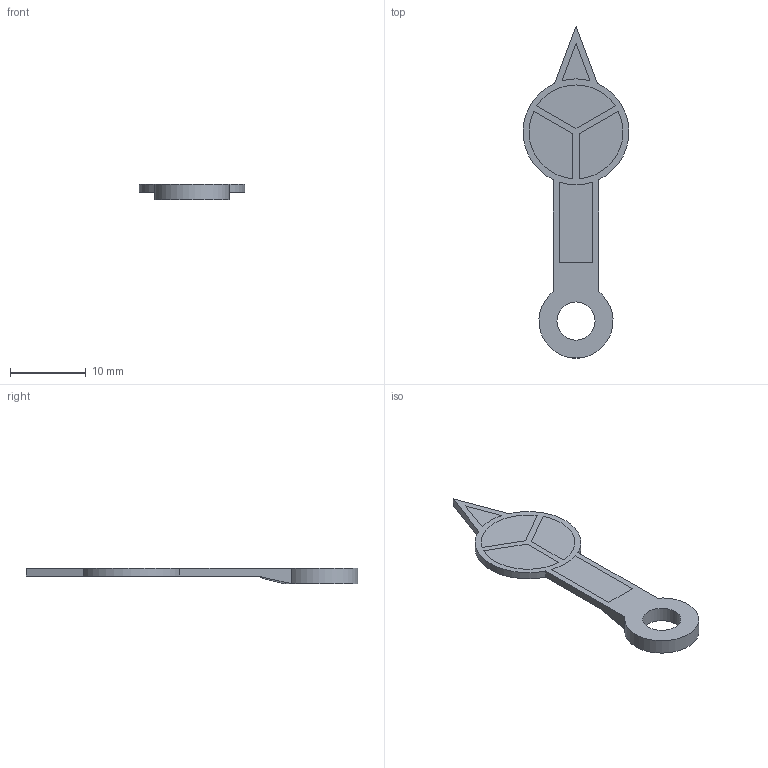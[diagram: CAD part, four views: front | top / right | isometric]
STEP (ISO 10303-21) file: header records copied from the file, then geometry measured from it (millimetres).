
FILE_DESCRIPTION(/* description */ ('STEP AP242','CAx-IF Rec.Pracs.---Representation and Presentation of Product Manufacturing Information (PMI)---4.0---2014-10-13','CAx-IF Rec.Pracs.---3D Tessellated Geometry---0.4---2014-09-14','2;1'),/* implementation_level */ '2;1');
FILE_NAME(/* name */ '66d36ffe95d81402515f4cec',/* time_stamp */ '2024-08-31T19:33:18Z',/* author */ (''),/* organization */ (''),/* preprocessor_version */ 'ST-DEVELOPER v20',/* originating_system */ ' ',/* authorisation */ ' ');
FILE_SCHEMA (('AP242_MANAGED_MODEL_BASED_3D_ENGINEERING_MIM_LF { 1 0 10303 442 1 1 4 }'));
Length unit declared in the file: metre
Products named in the file (6): Hourhand; hourhandinner
Bounding box: 14 x 43.87 x 2 mm (x, y, z)
Volume: 377.9 mm3; surface area: 1019.2 mm2
Topology: 6 solids, 6 shells, 54 faces, 127 edges, 84 vertices
Faces by surface type: plane 39, cylinder 14, cone 1
Full cylindrical faces by diameter (mm): 5.04 x1
Entity records: 1722 total; most frequent: CARTESIAN_POINT 285, DIRECTION 272, ORIENTED_EDGE 252, EDGE_CURVE 126, AXIS2_PLACEMENT_3D 91, LINE 90, VECTOR 90, VERTEX_POINT 84
